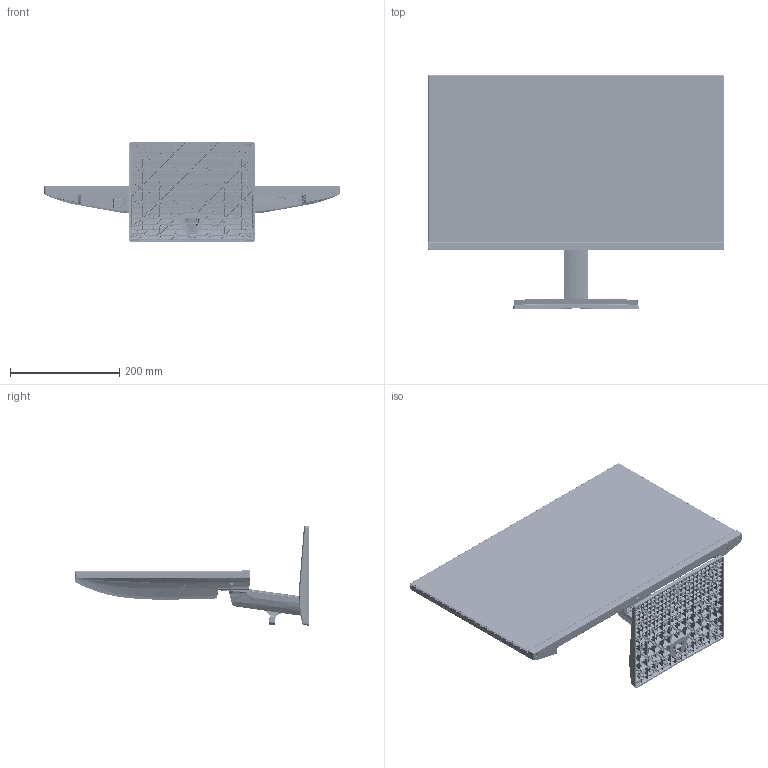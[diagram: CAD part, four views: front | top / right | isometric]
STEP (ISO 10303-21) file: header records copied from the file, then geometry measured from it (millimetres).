
FILE_DESCRIPTION(/* description */ (''),/* implementation_level */ '2;1');
FILE_NAME(/* name */ 'NF238-B01_ZH09_+线扣-内置电源.stp',/* time_stamp */ '2026-04-14T18:30:02+08:00',/* author */ (''),/* organization */ (''),/* preprocessor_version */ 'ST-DEVELOPER v20',/* originating_system */ 'SIEMENS PLM Software NX2412.1700',/* authorisation */ '');
FILE_SCHEMA (('AP203_CONFIGURATION_CONTROLLED_3D_DESIGN_OF_MECHANICAL_PARTS_AND_ASSEMBLIES_MIM_LF { 1 0 10303 403 2 1 2}'));
Products named in the file (1): NF238-B01_ZH09_+线扣-26041301_stp_objects
Bounding box: 541.05 x 428.58 x 183.29 mm (x, y, z)
Volume: 1342397.6 mm3; surface area: 1627194.6 mm2
Topology: 16 solids, 17 shells, 13027 faces, 36497 edges, 24020 vertices
Faces by surface type: plane 6838, cylinder 4612, bspline 750, torus 276, cone 234, extrusion 210, sphere 107
Full cylindrical faces by diameter (mm): 1.2 x86, 1.5 x5, 1.8 x1, 2.5 x33, 3.3 x4, 3.4 x6, 3.5 x23, 3.505 x1, 3.6 x9, 3.8 x2, 4.1 x3, 4.5 x6, 5 x23, 5.5 x58, 5.7 x4, 6 x2, 6.3 x1, 6.5 x2, 6.505 x1, 7 x2, 8 x2, 10.3 x10, 12.8 x10
Entity records: 493367 total; most frequent: CARTESIAN_POINT 187512, ORIENTED_EDGE 71662, DIRECTION 49378, EDGE_CURVE 35831, VERTEX_POINT 23729, AXIS2_PLACEMENT_3D 17135, B_SPLINE_CURVE_WITH_KNOTS 15752, VECTOR 15108
